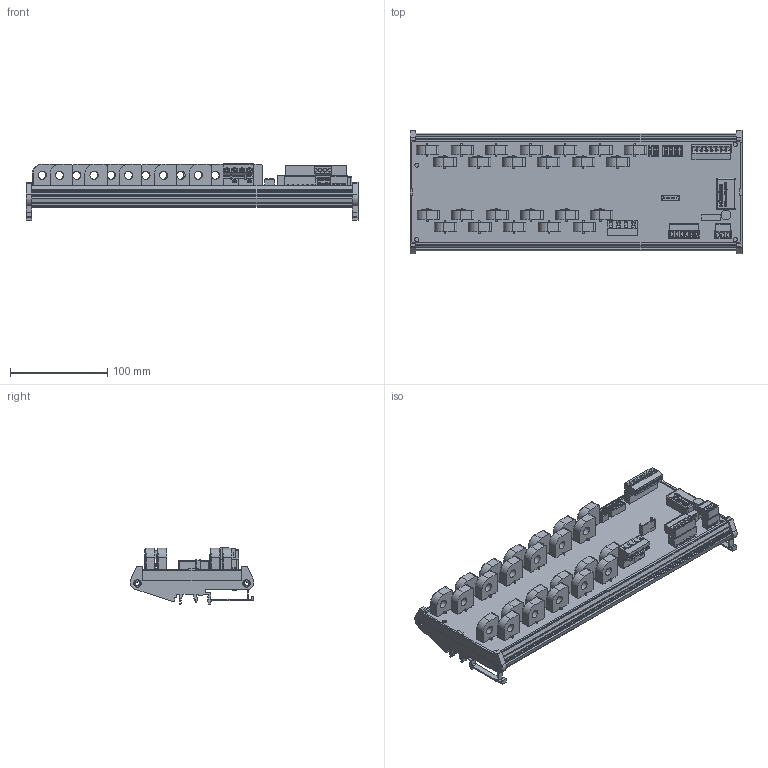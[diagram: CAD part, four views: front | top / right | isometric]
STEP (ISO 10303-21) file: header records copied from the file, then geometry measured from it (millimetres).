
FILE_DESCRIPTION(('FreeCAD Model'),'2;1');
FILE_NAME('C:/3D Files/Stringhe/ST0HS/ST0HS24xx/ST0HS24xx.step', '2023-01-13T09:21:27',('Author'),(''), 'Open CASCADE STEP processor 7.3','FreeCAD','Unknown');
FILE_SCHEMA(('AUTOMOTIVE_DESIGN { 1 0 10303 214 1 1 1 1 }'));
Length unit declared in the file: millimetre
Products named in the file (42): ST0HS24xx; AmpModu_6P_M; DipSwitch8; DipSwitch4; IB2405LS-1W; WRB2403ZP-6WR003; ELNA_470_uF_35_V; Mstb_06Pc_M; Mstb_06P_F; Mstb_03P_F; Mstb_03Pc_M; SH04-7,62; PV02-7,62-V-Pa; PV02-7,62-V-Pb; Mstb_8P_F; Mstb_8Pc_M; CHK-LSP5S2L-BP-CH_01; CHK-LSP5S2L-BP-CH_02; CHK-LSP5S2L-BP-CH_03; CHK-LSP5S2L-BP-CH_04; CHK-LSP5S2L-BP-CH_05; CHK-LSP5S2L-BP-CH_06; CHK-LSP5S2L-BP-CH_07; CHK-LSP5S2L-BP-CH_08; CHK-LSP5S2L-BP-CH_09; CHK-LSP5S2L-BP-CH_10; CHK-LSP5S2L-BP-CH_11; CHK-LSP5S2L-BP-CH_12; CHK-LSP5S2L-BP-CH_13; CHK-LSP5S2L-BP-CH_14; CHK-LSP5S2L-BP-CH_15; CHK-LSP5S2L-BP-CH_16; CHK-LSP5S2L-BP-CH_17; CHK-LSP5S2L-BP-CH_18; CHK-LSP5S2L-BP-CH_19; CHK-LSP5S2L-BP-CH_20; Stampato_338_x_108; Profilo_342x128; CHK-LSP5S2L-BP-CH_21; CHK-LSP5S2L-BP-CH_22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
Assembly tree (41 placements, depth 2):
  ST0HS24xx
    AmpModu_6P_M
    DipSwitch8
    DipSwitch4
    IB2405LS-1W
    WRB2403ZP-6WR003
    ELNA_470_uF_35_V
    Mstb_06Pc_M
    Mstb_06P_F
    Mstb_03P_F
    Mstb_03Pc_M
    SH04-7,62
    PV02-7,62-V-Pa
    PV02-7,62-V-Pb
    Mstb_8P_F
    Mstb_8Pc_M
    CHK-LSP5S2L-BP-CH_01
    CHK-LSP5S2L-BP-CH_02
    CHK-LSP5S2L-BP-CH_03
    CHK-LSP5S2L-BP-CH_04
    CHK-LSP5S2L-BP-CH_05
    CHK-LSP5S2L-BP-CH_06
    CHK-LSP5S2L-BP-CH_07
    CHK-LSP5S2L-BP-CH_08
    CHK-LSP5S2L-BP-CH_09
    CHK-LSP5S2L-BP-CH_10
    CHK-LSP5S2L-BP-CH_11
    CHK-LSP5S2L-BP-CH_12
    CHK-LSP5S2L-BP-CH_13
    CHK-LSP5S2L-BP-CH_14
    CHK-LSP5S2L-BP-CH_15
    CHK-LSP5S2L-BP-CH_16
    CHK-LSP5S2L-BP-CH_17
    CHK-LSP5S2L-BP-CH_18
    CHK-LSP5S2L-BP-CH_19
    CHK-LSP5S2L-BP-CH_20
    Stampato_338_x_108
    Profilo_342x128
    CHK-LSP5S2L-BP-CH_21
    CHK-LSP5S2L-BP-CH_22
    CHK-LSP5S2L-BP-CH_23
    CHK-LSP5S2L-BP-CH_24
Bounding box: 342 x 127.59 x 57.69 mm (x, y, z)
Volume: 321515.6 mm3; surface area: 327977.3 mm2
Topology: 55 solids, 94 shells, 7236 faces, 24185 edges, 30724 vertices
Faces by surface type: plane 5595, cylinder 1195, torus 208, bspline 160, cone 59, sphere 16, extrusion 3
Full cylindrical faces by diameter (mm): 0.5 x4, 0.75 x36, 1 x10, 1.5 x8, 1.6 x13, 3.8 x4, 4 x25, 4.3 x4, 7.9 x4, 9.202 x4, 10 x1
Entity records: 565594 total; most frequent: CARTESIAN_POINT 136930, DIRECTION 75296, VECTOR 52666, LINE 52663, ORIENTED_EDGE 38747, PCURVE 38747, DEFINITIONAL_REPRESENTATION 38747, EDGE_CURVE 19736
